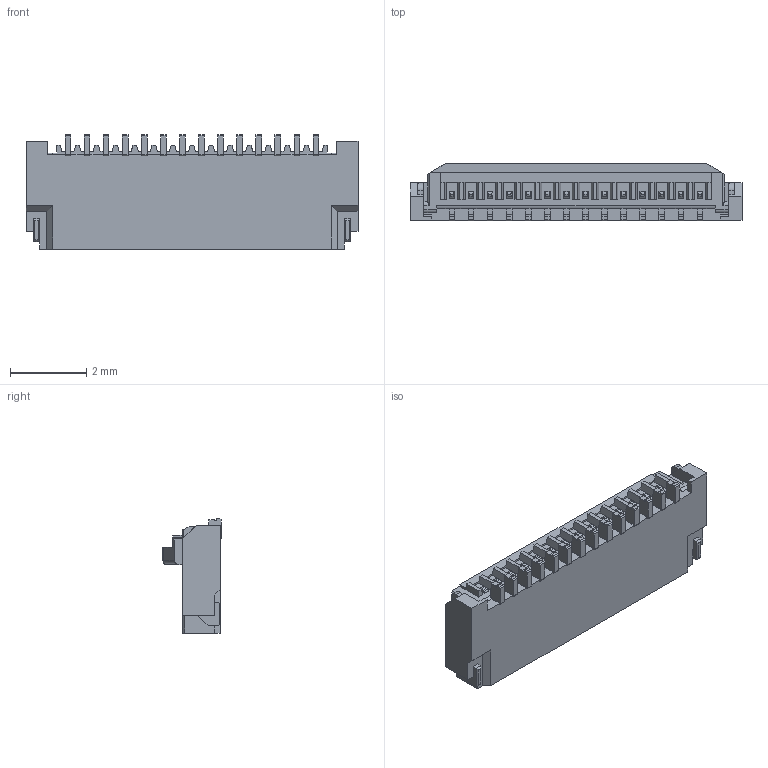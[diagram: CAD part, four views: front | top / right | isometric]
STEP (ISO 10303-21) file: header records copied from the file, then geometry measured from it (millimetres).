
FILE_DESCRIPTION (( 'STEP AP203' ), '1' );
FILE_NAME ('20542-014E-01C ACT OPEN STEP R1 ALL.STEP', '2013-03-20T08:12:36', ( '' ), ( '' ), 'SwSTEP 2.0', 'SolidWorks 2011', '' );
FILE_SCHEMA (( 'CONFIG_CONTROL_DESIGN' ));
Length unit declared in the file: millimetre
Products named in the file (1): 20542-014E-01C ACT OPEN STEP R1 ALL
Bounding box: 8.7 x 1.52 x 3 mm (x, y, z)
Volume: 23 mm3; surface area: 86.1 mm2
Topology: 1 solids, 1 shells, 519 faces, 1559 edges, 1026 vertices
Faces by surface type: plane 393, cylinder 124, sphere 2
Entity records: 17460 total; most frequent: CARTESIAN_POINT 3289, ORIENTED_EDGE 3114, DIRECTION 2779, EDGE_CURVE 1557, LINE 1251, VECTOR 1251, VERTEX_POINT 1026, AXIS2_PLACEMENT_3D 764
